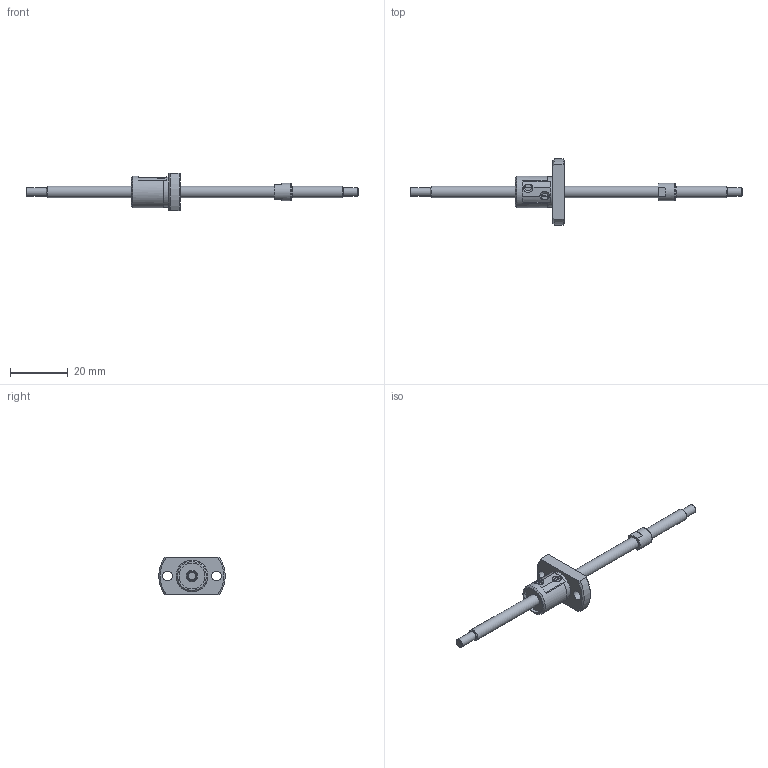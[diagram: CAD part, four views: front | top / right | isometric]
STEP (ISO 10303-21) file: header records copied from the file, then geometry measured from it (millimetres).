
FILE_DESCRIPTION(/* description */ ('STEP AP214'),/* implementation_level */ '2;1');
FILE_NAME(/* name */ 'SG0401-076R115C3C0X(29.5)',/* time_stamp */ '2026-07-20T19:39:40+02:00',/* author */ ('License CC BY-ND 4.0'),/* organization */ ('CADENAS'),/* preprocessor_version */ 'ST-DEVELOPER v20',/* originating_system */ 'PARTsolutions',/* authorisation */ ' ');
FILE_SCHEMA (('AUTOMOTIVE_DESIGN {1 0 10303 214 3 1 1}'));
Length unit declared in the file: millimetre
Products named in the file (3): SG0401-076R115C3C0X(29.5); SG0401-76R115C3C_shaft; SG0401_nut
Assembly tree (2 placements, depth 2):
  SG0401-076R115C3C0X(29.5)
    SG0401-76R115C3C_shaft
    SG0401_nut
Bounding box: 115 x 22.92 x 13 mm (x, y, z)
Volume: 3386.4 mm3; surface area: 3040.7 mm2
Topology: 2 solids, 2 shells, 74 faces, 178 edges, 117 vertices
Faces by surface type: plane 35, cylinder 24, cone 14, torus 1
Full cylindrical faces by diameter (mm): 3 x2, 3.4 x2, 4 x3, 6 x1, 9 x2, 10.6 x1, 11 x1
Entity records: 2085 total; most frequent: CARTESIAN_POINT 389, DIRECTION 352, ORIENTED_EDGE 292, AXIS2_PLACEMENT_3D 147, EDGE_CURVE 146, EDGE_LOOP 112, FACE_BOUND 112, VERTEX_POINT 108
